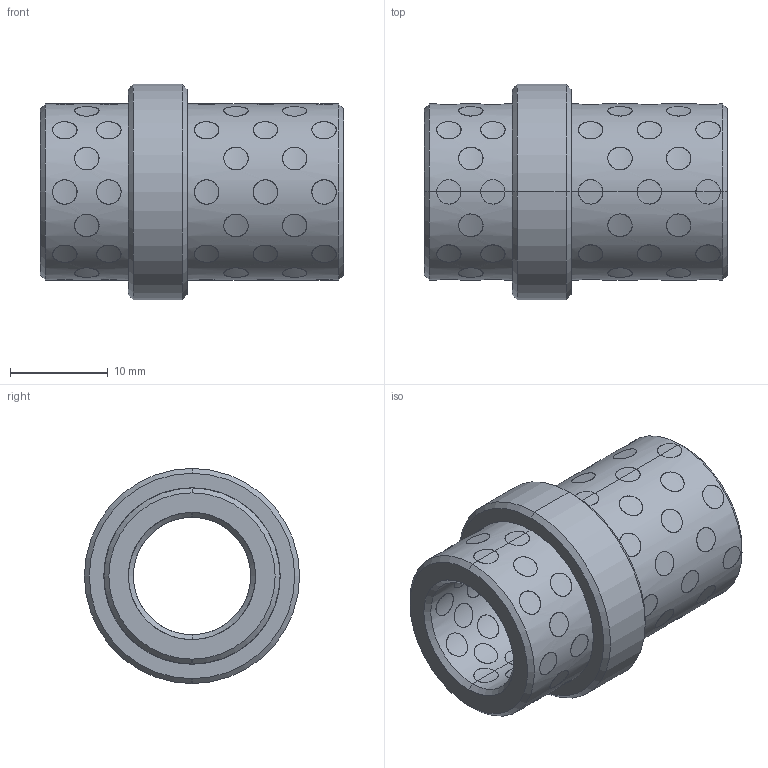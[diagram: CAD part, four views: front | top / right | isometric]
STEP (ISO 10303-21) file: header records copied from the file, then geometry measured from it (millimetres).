
FILE_DESCRIPTION(('CATIA V5 STEP Exchange'),'2;1');
FILE_NAME('C:\Users\Utente\Desktop\3D files G402\G4021222.stp','2020-04-22T08:44:49+00:00',('none'),('none'),'CATIA Version 5 Release 20 GA (IN-10)','CATIA V5 STEP AP203','none');
FILE_SCHEMA(('CONFIG_CONTROL_DESIGN'));
Length unit declared in the file: millimetre
Products named in the file (1): G4021222
Bounding box: 31 x 22 x 22 mm (x, y, z)
Surface area: 6456.1 mm2 (no closed solid volume)
Topology: 0 solids, 428 shells, 428 faces, 1872 edges, 1872 vertices
Faces by surface type: cylinder 412, revolution 12, plane 4
Entity records: 32992 total; most frequent: CARTESIAN_POINT 20023, ORIENTED_EDGE 1872, EDGE_CURVE 1872, VERTEX_POINT 1872, DIRECTION 1523, B_SPLINE_CURVE_WITH_KNOTS 1205, VECTOR 632, LINE 632
